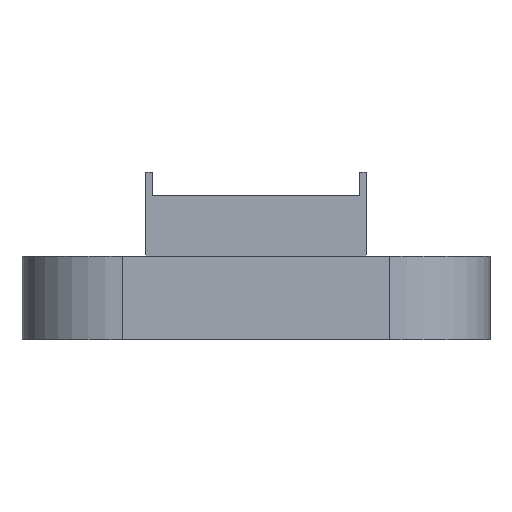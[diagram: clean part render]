
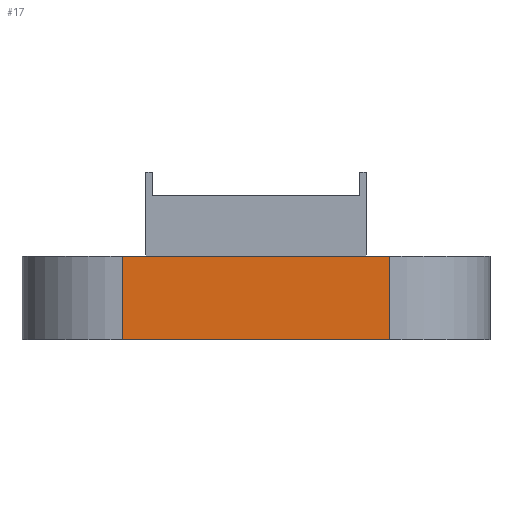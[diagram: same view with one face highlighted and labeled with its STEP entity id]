
A CAD part, left-side view. The second image highlights one B-rep face of the part: STEP entity #17.
In plain terms, the highlighted planar face has unit normal (-1, 0, 0).
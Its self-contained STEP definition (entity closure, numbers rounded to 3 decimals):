
#17 = ADVANCED_FACE('',(#18),#32,.F.);
#18 = FACE_BOUND('',#19,.F.);
#19 = EDGE_LOOP('',(#20,#55,#83,#111));
#20 = ORIENTED_EDGE('',*,*,#21,.F.);
#21 = EDGE_CURVE('',#22,#24,#26,.T.);
#22 = VERTEX_POINT('',#23);
#23 = CARTESIAN_POINT('',(146.,92.,24.5));
#24 = VERTEX_POINT('',#25);
#25 = CARTESIAN_POINT('',(146.,100.,24.5));
#26 = SURFACE_CURVE('',#27,(#31,#43),.PCURVE_S1.);
#27 = LINE('',#28,#29);
#28 = CARTESIAN_POINT('',(146.,89.,24.5));
#29 = VECTOR('',#30,1.);
#30 = DIRECTION('',(0.,1.,0.));
#31 = PCURVE('',#32,#37);
#32 = PLANE('',#33);
#33 = AXIS2_PLACEMENT_3D('',#34,#35,#36);
#34 = CARTESIAN_POINT('',(146.,89.,22.));
#35 = DIRECTION('',(1.,0.,0.));
#36 = DIRECTION('',(0.,0.,1.));
#37 = DEFINITIONAL_REPRESENTATION('',(#38),#42);
#38 = LINE('',#39,#40);
#39 = CARTESIAN_POINT('',(2.5,0.));
#40 = VECTOR('',#41,1.);
#41 = DIRECTION('',(0.,-1.));
#42 = ( GEOMETRIC_REPRESENTATION_CONTEXT(2) 
PARAMETRIC_REPRESENTATION_CONTEXT() REPRESENTATION_CONTEXT('2D SPACE',''
  ) );
#43 = PCURVE('',#44,#49);
#44 = PLANE('',#45);
#45 = AXIS2_PLACEMENT_3D('',#46,#47,#48);
#46 = CARTESIAN_POINT('',(146.,89.,24.5));
#47 = DIRECTION('',(0.,0.,1.));
#48 = DIRECTION('',(1.,0.,0.));
#49 = DEFINITIONAL_REPRESENTATION('',(#50),#54);
#50 = LINE('',#51,#52);
#51 = CARTESIAN_POINT('',(0.,0.));
#52 = VECTOR('',#53,1.);
#53 = DIRECTION('',(0.,1.));
#54 = ( GEOMETRIC_REPRESENTATION_CONTEXT(2) 
PARAMETRIC_REPRESENTATION_CONTEXT() REPRESENTATION_CONTEXT('2D SPACE',''
  ) );
#55 = ORIENTED_EDGE('',*,*,#56,.F.);
#56 = EDGE_CURVE('',#57,#22,#59,.T.);
#57 = VERTEX_POINT('',#58);
#58 = CARTESIAN_POINT('',(146.,92.,22.));
#59 = SURFACE_CURVE('',#60,(#64,#71),.PCURVE_S1.);
#60 = LINE('',#61,#62);
#61 = CARTESIAN_POINT('',(146.,92.,22.));
#62 = VECTOR('',#63,1.);
#63 = DIRECTION('',(0.,0.,1.));
#64 = PCURVE('',#32,#65);
#65 = DEFINITIONAL_REPRESENTATION('',(#66),#70);
#66 = LINE('',#67,#68);
#67 = CARTESIAN_POINT('',(0.,-3.));
#68 = VECTOR('',#69,1.);
#69 = DIRECTION('',(1.,0.));
#70 = ( GEOMETRIC_REPRESENTATION_CONTEXT(2) 
PARAMETRIC_REPRESENTATION_CONTEXT() REPRESENTATION_CONTEXT('2D SPACE',''
  ) );
#71 = PCURVE('',#72,#77);
#72 = CYLINDRICAL_SURFACE('',#73,3.);
#73 = AXIS2_PLACEMENT_3D('',#74,#75,#76);
#74 = CARTESIAN_POINT('',(149.,92.,22.));
#75 = DIRECTION('',(0.,0.,1.));
#76 = DIRECTION('',(-1.,-0.,0.));
#77 = DEFINITIONAL_REPRESENTATION('',(#78),#82);
#78 = LINE('',#79,#80);
#79 = CARTESIAN_POINT('',(0.,0.));
#80 = VECTOR('',#81,1.);
#81 = DIRECTION('',(0.,1.));
#82 = ( GEOMETRIC_REPRESENTATION_CONTEXT(2) 
PARAMETRIC_REPRESENTATION_CONTEXT() REPRESENTATION_CONTEXT('2D SPACE',''
  ) );
#83 = ORIENTED_EDGE('',*,*,#84,.T.);
#84 = EDGE_CURVE('',#57,#85,#87,.T.);
#85 = VERTEX_POINT('',#86);
#86 = CARTESIAN_POINT('',(146.,100.,22.));
#87 = SURFACE_CURVE('',#88,(#92,#99),.PCURVE_S1.);
#88 = LINE('',#89,#90);
#89 = CARTESIAN_POINT('',(146.,89.,22.));
#90 = VECTOR('',#91,1.);
#91 = DIRECTION('',(0.,1.,0.));
#92 = PCURVE('',#32,#93);
#93 = DEFINITIONAL_REPRESENTATION('',(#94),#98);
#94 = LINE('',#95,#96);
#95 = CARTESIAN_POINT('',(0.,0.));
#96 = VECTOR('',#97,1.);
#97 = DIRECTION('',(0.,-1.));
#98 = ( GEOMETRIC_REPRESENTATION_CONTEXT(2) 
PARAMETRIC_REPRESENTATION_CONTEXT() REPRESENTATION_CONTEXT('2D SPACE',''
  ) );
#99 = PCURVE('',#100,#105);
#100 = PLANE('',#101);
#101 = AXIS2_PLACEMENT_3D('',#102,#103,#104);
#102 = CARTESIAN_POINT('',(146.,89.,22.));
#103 = DIRECTION('',(0.,0.,1.));
#104 = DIRECTION('',(1.,0.,0.));
#105 = DEFINITIONAL_REPRESENTATION('',(#106),#110);
#106 = LINE('',#107,#108);
#107 = CARTESIAN_POINT('',(0.,0.));
#108 = VECTOR('',#109,1.);
#109 = DIRECTION('',(0.,1.));
#110 = ( GEOMETRIC_REPRESENTATION_CONTEXT(2) 
PARAMETRIC_REPRESENTATION_CONTEXT() REPRESENTATION_CONTEXT('2D SPACE',''
  ) );
#111 = ORIENTED_EDGE('',*,*,#112,.T.);
#112 = EDGE_CURVE('',#85,#24,#113,.T.);
#113 = SURFACE_CURVE('',#114,(#118,#125),.PCURVE_S1.);
#114 = LINE('',#115,#116);
#115 = CARTESIAN_POINT('',(146.,100.,22.));
#116 = VECTOR('',#117,1.);
#117 = DIRECTION('',(0.,0.,1.));
#118 = PCURVE('',#32,#119);
#119 = DEFINITIONAL_REPRESENTATION('',(#120),#124);
#120 = LINE('',#121,#122);
#121 = CARTESIAN_POINT('',(0.,-11.));
#122 = VECTOR('',#123,1.);
#123 = DIRECTION('',(1.,0.));
#124 = ( GEOMETRIC_REPRESENTATION_CONTEXT(2) 
PARAMETRIC_REPRESENTATION_CONTEXT() REPRESENTATION_CONTEXT('2D SPACE',''
  ) );
#125 = PCURVE('',#126,#131);
#126 = CYLINDRICAL_SURFACE('',#127,3.);
#127 = AXIS2_PLACEMENT_3D('',#128,#129,#130);
#128 = CARTESIAN_POINT('',(149.,100.,22.));
#129 = DIRECTION('',(0.,0.,1.));
#130 = DIRECTION('',(-1.,-0.,0.));
#131 = DEFINITIONAL_REPRESENTATION('',(#132),#136);
#132 = LINE('',#133,#134);
#133 = CARTESIAN_POINT('',(-0.,0.));
#134 = VECTOR('',#135,1.);
#135 = DIRECTION('',(-0.,1.));
#136 = ( GEOMETRIC_REPRESENTATION_CONTEXT(2) 
PARAMETRIC_REPRESENTATION_CONTEXT() REPRESENTATION_CONTEXT('2D SPACE',''
  ) );
